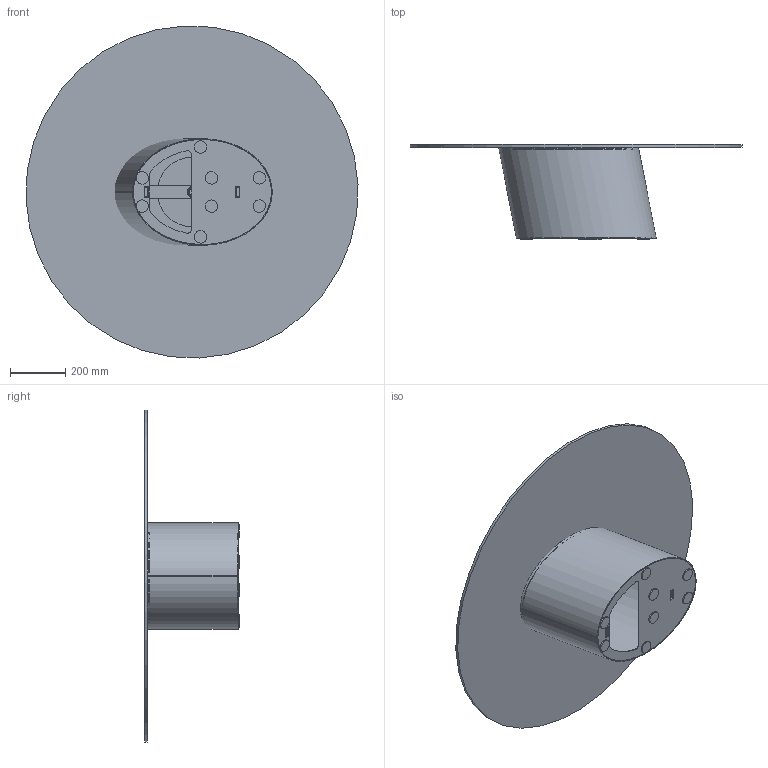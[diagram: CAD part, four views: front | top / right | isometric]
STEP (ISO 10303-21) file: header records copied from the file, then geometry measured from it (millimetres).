
FILE_DESCRIPTION (( 'STEP AP203' ), '1' );
FILE_NAME ('D114G.STEP', '2024-08-07T11:21:15', ( '' ), ( '' ), 'SwSTEP 2.0', 'SolidWorks 2022', '' );
FILE_SCHEMA (( 'CONFIG_CONTROL_DESIGN' ));
Length unit declared in the file: millimetre
Products named in the file (6): Parte2^Dxxxx-00-DORADO LOW; P0000003-00-STAFFA DI FISSAGGIO DIAMETRO 250_P0000003-250mm normale; D114G; Parte matrice basamento DORADO LOW H350_Default<A macchina>; CXXCRXX-00-Piani Rotondi in Cristallo CON PIASTRA_C14P PIANO CRISTALLO D.120cm; C1XCRMXX-00-piani Rotondi Cristallo_C14 D.120cm
Assembly tree (12 placements, depth 3):
  D114G
    Parte matrice basamento DORADO LOW H350_Default<A macchina>
    Parte2^Dxxxx-00-DORADO LOW  x8
    CXXCRXX-00-Piani Rotondi in Cristallo CON PIASTRA_C14P PIANO CRISTALLO D.120cm
      C1XCRMXX-00-piani Rotondi Cristallo_C14 D.120cm
      P0000003-00-STAFFA DI FISSAGGIO DIAMETRO 250_P0000003-250mm normale
Bounding box: 1198.81 x 343 x 1198.81 mm (x, y, z)
Volume: 13538992.5 mm3; surface area: 3860567.5 mm2
Topology: 17 solids, 17 shells, 179 faces, 433 edges, 288 vertices
Faces by surface type: plane 84, cylinder 75, bspline 14, cone 6
Entity records: 8477 total; most frequent: CARTESIAN_POINT 3900, ORIENTED_EDGE 782, DIRECTION 771, EDGE_CURVE 391, AXIS2_PLACEMENT_3D 279, VERTEX_POINT 260, LINE 213, VECTOR 213
